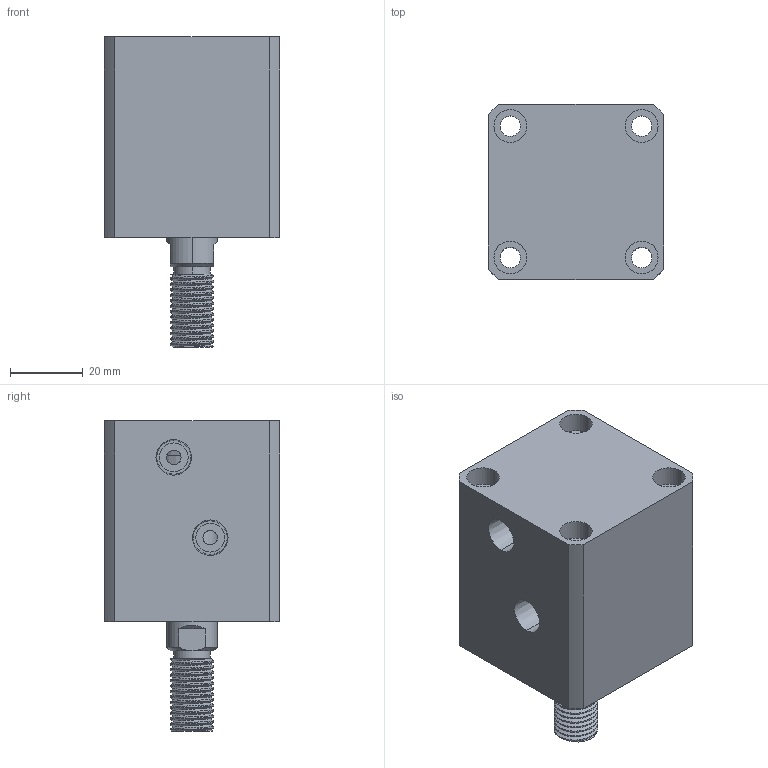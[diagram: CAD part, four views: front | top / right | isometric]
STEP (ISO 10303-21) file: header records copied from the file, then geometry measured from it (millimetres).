
FILE_DESCRIPTION (( 'STEP AP214' ), '1' );
FILE_NAME ('chtb-sd25x10w_asm.STEP', '2018-05-22T09:12:10', ( 'Windows' ), ( 'Microsoft' ), 'SwSTEP 2.0', 'SolidWorks 2015', '' );
FILE_SCHEMA (( 'AUTOMOTIVE_DESIGN' ));
Length unit declared in the file: millimetre
Products named in the file (4): CHTB-25QG; chtb-sd25x10w_asm; CHTB-SD25X10WHSG; CHTB-SD25X10NBT
Assembly tree (3 placements, depth 2):
  chtb-sd25x10w_asm
    CHTB-25QG
    CHTB-SD25X10NBT
    CHTB-SD25X10WHSG
Bounding box: 48 x 48 x 85 mm (x, y, z)
Volume: 116599.8 mm3; surface area: 34114.9 mm2
Topology: 3 solids, 3 shells, 178 faces, 474 edges, 323 vertices
Faces by surface type: cylinder 113, plane 39, cone 14, bspline 12
Entity records: 10610 total; most frequent: CARTESIAN_POINT 6273, ORIENTED_EDGE 940, DIRECTION 778, EDGE_CURVE 470, VERTEX_POINT 323, AXIS2_PLACEMENT_3D 317, EDGE_LOOP 217, FACE_OUTER_BOUND 178
